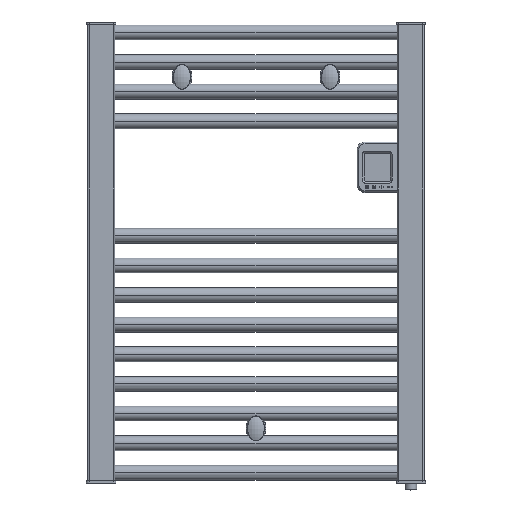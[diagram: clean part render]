
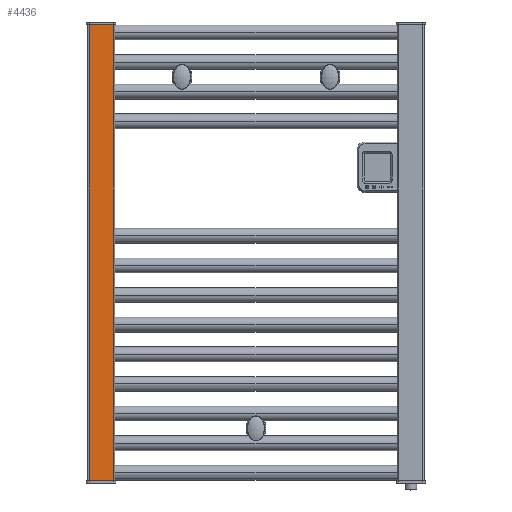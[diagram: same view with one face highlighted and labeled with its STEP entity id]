
A CAD part, top view. The second image highlights one B-rep face of the part: STEP entity #4436.
In plain terms, the highlighted planar face has unit normal (0, 0, 1).
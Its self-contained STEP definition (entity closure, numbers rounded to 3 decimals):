
#1778=DIRECTION('',(0.,1.,0.));
#1779=VECTOR('',#1778,677.);
#1780=CARTESIAN_POINT('',(-212.,4.,15.));
#1781=LINE('',#1780,#1779);
#1785=DIRECTION('',(1.,0.,0.));
#1786=VECTOR('',#1785,36.);
#1787=CARTESIAN_POINT('',(-248.,681.,15.));
#1788=LINE('',#1787,#1786);
#1792=DIRECTION('',(1.,0.,0.));
#1793=VECTOR('',#1792,36.);
#1794=CARTESIAN_POINT('',(-248.,4.,15.));
#1795=LINE('',#1794,#1793);
#1799=DIRECTION('',(0.,1.,0.));
#1800=VECTOR('',#1799,677.);
#1801=CARTESIAN_POINT('',(-248.,4.,15.));
#1802=LINE('',#1801,#1800);
#2734=CARTESIAN_POINT('',(-248.,4.,15.));
#2735=VERTEX_POINT('',#2734);
#2736=CARTESIAN_POINT('',(-212.,4.,15.));
#2737=VERTEX_POINT('',#2736);
#2958=CARTESIAN_POINT('',(-248.,681.,15.));
#2959=VERTEX_POINT('',#2958);
#2960=CARTESIAN_POINT('',(-212.,681.,15.));
#2961=VERTEX_POINT('',#2960);
#4424=CARTESIAN_POINT('',(-248.,0.,15.));
#4425=DIRECTION('',(0.,0.,1.));
#4426=DIRECTION('',(1.,0.,0.));
#4427=AXIS2_PLACEMENT_3D('',#4424,#4425,#4426);
#4428=PLANE('',#4427);
#4429=ORIENTED_EDGE('',*,*,#3749,.T.);
#4430=ORIENTED_EDGE('',*,*,#4419,.F.);
#4431=ORIENTED_EDGE('',*,*,#3435,.F.);
#4433=ORIENTED_EDGE('',*,*,#4432,.T.);
#4434=EDGE_LOOP('',(#4429,#4430,#4431,#4433));
#4435=FACE_OUTER_BOUND('',#4434,.F.);
#3435=EDGE_CURVE('',#2735,#2737,#1795,.T.);
#3749=EDGE_CURVE('',#2959,#2961,#1788,.T.);
#4419=EDGE_CURVE('',#2737,#2961,#1781,.T.);
#4432=EDGE_CURVE('',#2735,#2959,#1802,.T.);
#4436=ADVANCED_FACE('',(#4435),#4428,.T.);
